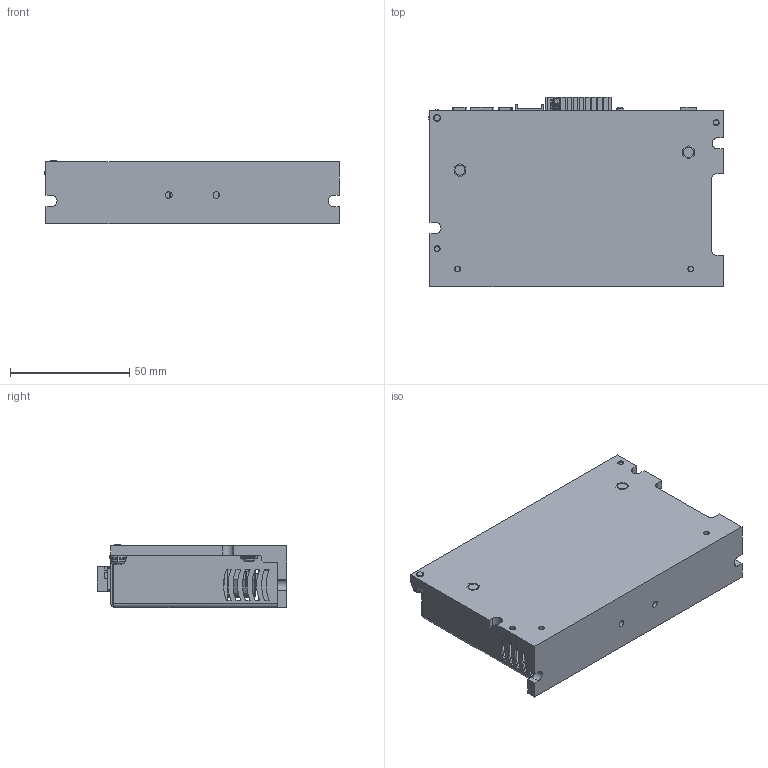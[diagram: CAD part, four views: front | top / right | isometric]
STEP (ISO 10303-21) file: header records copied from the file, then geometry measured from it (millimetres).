
FILE_DESCRIPTION((''),'2;1');
FILE_NAME('SW4D_CON_IMD09_ASM','2019-10-02T17:32:08',('Matteo Maccalli'),(''),'CREO PARAMETRIC BY PTC INC, 2017260','CREO PARAMETRIC BY PTC INC, 2017260','');
FILE_SCHEMA(('AUTOMOTIVE_DESIGN { 1 0 10303 214 1 1 1 1 }'));
Products named in the file (57): ESTRUSO_SW4D_IMD09; FASTENINGS_M2_5X7MM_OK; ESTRUSO_SW4D_IMD09_INS_ASM; AD_01049_SW4D_IMD09; BOARD; DINKLE_0156-1520L; CN3_ASM; TE_ADP0404_1571999-6; DIP400_ASM; E13; T200_ASM; CAP_ELECTRO_12_5X20X5_0MM_ORIZ; CE201_ASM; 5151061F; GL400_ASM; RTE0400V04; SW400_ASM; 877600416; JMP500_ASM; SOLID-370903; COMPOUND-382062; 878330431_ASM; CN6_ASM; C-5555153-1-C-3D; CN5B_ASM; CN5A_ASM; DF11-10DP-2DS_X_8A0001; DF11-10DP-2DS_ASM; CN4_ASM; SOLID-427556; COMPOUND-436122; MOLEX_039300040_ASM; CN2_ASM; SOLID-436284; COMPOUND-442530; MOLEX_039300020_ASM; CN1_ASM; CN1L_ASM; HEADER_2-442681; HEADER_2-450330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
Assembly tree (59 placements, depth 6):
  SW4D_CON_IMD09_ASM
    ESTRUSO_SW4D_IMD09_INS_ASM
      ESTRUSO_SW4D_IMD09
      FASTENINGS_M2_5X7MM_OK  x2
    AD_01049_SW4D_IMD09
    IMD09-00_2_ASM
      PCB_ASM
        BOARD
        CN3_ASM
          DINKLE_0156-1520L
        DIP400_ASM
          TE_ADP0404_1571999-6
        T200_ASM
          E13
        CE201_ASM
          CAP_ELECTRO_12_5X20X5_0MM_ORIZ
        GL400_ASM
          5151061F
        SW400_ASM
          RTE0400V04
        JMP500_ASM
          877600416
        CN6_ASM
          878330431_ASM
            SOLID-370903
            COMPOUND-382062
        CN5B_ASM
          C-5555153-1-C-3D
        CN5A_ASM
          C-5555153-1-C-3D
        CN4_ASM
          DF11-10DP-2DS_ASM
            DF11-10DP-2DS_X_8A0001
        CN2_ASM
          MOLEX_039300040_ASM
            SOLID-427556
            COMPOUND-436122
        CN1_ASM
          MOLEX_039300020_ASM
            SOLID-436284
            COMPOUND-442530
        CN1L_ASM
          MOLEX_039300020_ASM
            SOLID-436284
            COMPOUND-442530
        JMP401_ASM
          HEADER_2-442681
          HEADER_2-450330
          HEADER_2-450358
          HEADER_2-450386
          HEADER_2-450414
    TCC_M2E5X05_AF0
    TCC_M2E5X05_AF1
    TCC_M2E5X05_AF2
    TCC_M2E5X05_AF3
    SCATOLA_SW4D_IMD09
    TCC_M2E5X04_AF1
    TCC_M2E5X04_AF0
    RONDELLA_DENTELLATA_VITE3MM
    MAR-PN3
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Bounding box: 123.7 x 79.75 x 26.53 mm (x, y, z)
Volume: 79035.6 mm3; surface area: 84451.4 mm2
Topology: 28 solids, 67 shells, 6114 faces, 16809 edges, 11013 vertices
Faces by surface type: plane 4678, cylinder 1200, torus 108, sphere 56, cone 52, extrusion 16, bspline 4
Entity records: 217907 total; most frequent: CARTESIAN_POINT 36801, ORIENTED_EDGE 31324, DIRECTION 28687, EDGE_CURVE 15728, VECTOR 12307, LINE 12291, VERTEX_POINT 10297, AXIS2_PLACEMENT_3D 8190
